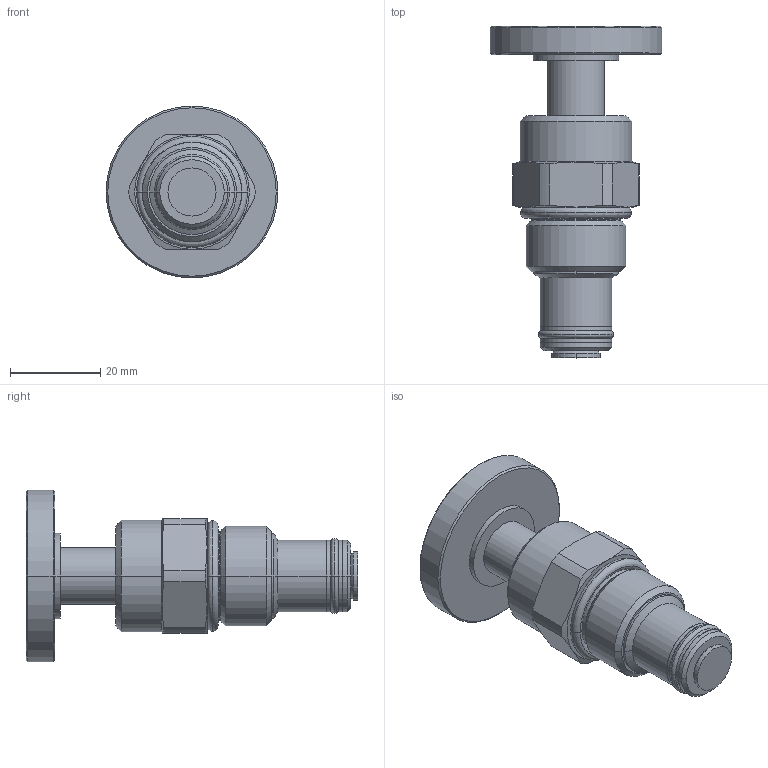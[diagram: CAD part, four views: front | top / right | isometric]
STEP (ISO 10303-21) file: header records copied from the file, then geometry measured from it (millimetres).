
FILE_DESCRIPTION((''),'2;1');
FILE_NAME('FC10-21E','2009-02-03T',('jcs'),(''),'PRO/ENGINEER BY PARAMETRIC TECHNOLOGY CORPORATION, 2008010','PRO/ENGINEER BY PARAMETRIC TECHNOLOGY CORPORATION, 2008010','');
FILE_SCHEMA(('CONFIG_CONTROL_DESIGN'));
Length unit declared in the file: inch
Products named in the file (1): FC10-21E
Bounding box: 38.1 x 73.54 x 38.1 mm (x, y, z)
Volume: 28209.9 mm3; surface area: 9694.3 mm2
Topology: 3 solids, 3 shells, 147 faces, 328 edges, 193 vertices
Faces by surface type: cylinder 42, cone 40, plane 37, revolution 16, torus 12
Entity records: 4504 total; most frequent: CARTESIAN_POINT 1174, DIRECTION 726, ORIENTED_EDGE 652, EDGE_CURVE 326, AXIS2_PLACEMENT_3D 299, VERTEX_POINT 193, CIRCLE 168, EDGE_LOOP 159
